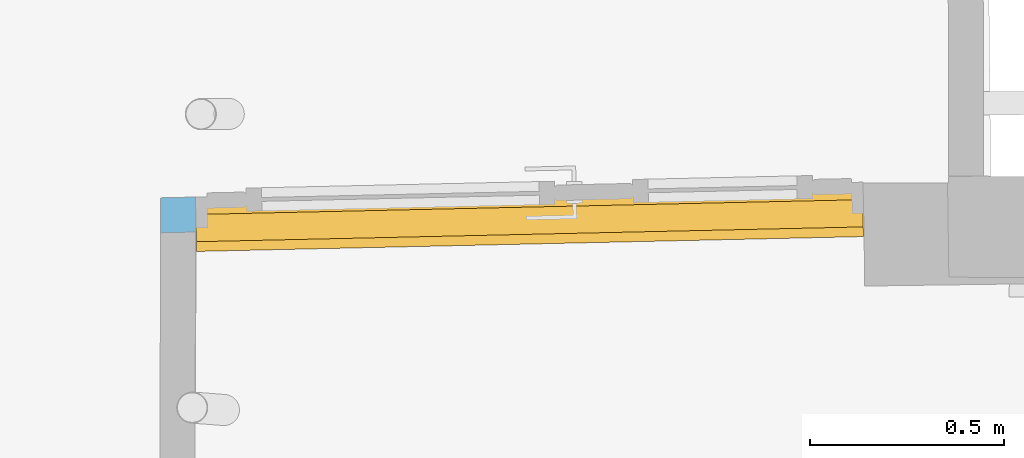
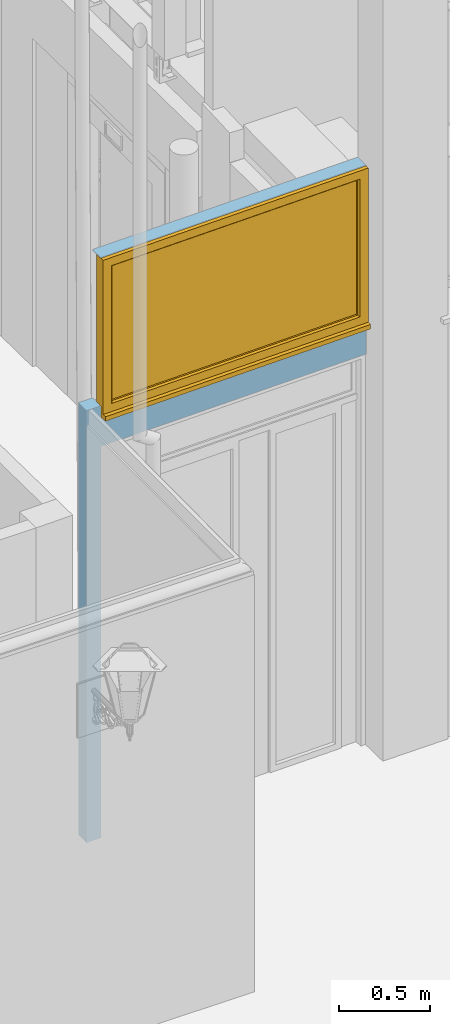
# One storey, part 93 of 133: 1 window, 2 openings, plus 1 element that does not belong to this part.
"""IFC2X3 building model written with IfcOpenShell, lengths in centimetres."""

from ifc_helpers import new_model, entity, si_unit, converted_unit, direction, frame, origin, origin_with_axes, place, context, subcontext, project, spatial, polyline, outline, extrude, clip, bounded_halfspace, faceted_brep, shape, material, material_list, layer, layer_set, layer_usage, type_object, element, fill, save


model = new_model("IFC2X3")

# Units and contexts
model_context = context("Model", 3, precision=0.0001, world=origin(), true_north=direction((0.225632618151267, 0.974212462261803, 0.0)))
body_context = subcontext(model_context, "Body", "Model", "MODEL_VIEW")
footprint_context = subcontext(model_context, "FootPrint", "Model", "MODEL_VIEW")
profile_context = subcontext(model_context, "Profile", "Model", "MODEL_VIEW")
ifc_project = project(units=[si_unit("LENGTHUNIT", "METRE", prefix="CENTI"), si_unit("AREAUNIT", "SQUARE_METRE", prefix="CENTI"), si_unit("VOLUMEUNIT", "CUBIC_METRE", prefix="CENTI"), converted_unit("PLANEANGLEUNIT", "DEGREE", entity("IfcRatioMeasure", 0.0174532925), si_unit("PLANEANGLEUNIT", "RADIAN"), dimensions=[0, 0, 0, 0, 0, 0, 0])], contexts=[model_context])

# Site, building, storey
site_placement = place(None, origin_with_axes())
site = spatial("IfcSite", under=ifc_project, at=site_placement, Name="Default Site", CompositionType="ELEMENT")
building_placement = place(site_placement, origin_with_axes())
building = spatial("IfcBuilding", under=site, at=building_placement, Name="Default Building", CompositionType="ELEMENT")
storey_placement = place(building_placement, frame((0.0, 0.0, -291.400371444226), z_axis=(0.0, 0.0, 1.0), x_axis=(1.0, 0.0, 0.0)))
storey = spatial("IfcBuildingStorey", under=building, at=storey_placement, Name="Rez-de-Jardin", CompositionType="ELEMENT", Elevation=-291.400371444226)

# Wall, openings, window
ifc_material_1 = material(Name="<aucun>")
ifc_layer = layer(ifc_material_1, 9.0)
ifc_layer_set = layer_set([ifc_layer], Name="default")
ifc_layer_usage = layer_usage(ifc_layer_set, "AXIS2", "POSITIVE", -4.5)
wall_type = type_object("IfcWallType", Name="default 90", PredefinedType="NOTDEFINED", material=ifc_layer_set)
wall_placement = place(storey_placement, frame((902.950751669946, -880.856620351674, -1.94511073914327e-11), z_axis=(0.0, 0.0, 1.0), x_axis=(0.999752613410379, 0.0222421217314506, 0.0)))
wall = element("IfcWallStandardCase", 1, at=wall_placement, inside=storey, type_object=wall_type, material=ifc_layer_usage, Name="Enveloppe 238929", context=body_context, shape_type="Clipping", body=[
    clip(extrude(outline(polyline([(-9.17824517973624, -4.49999999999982), (171.546982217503, -4.49999999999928), (171.546982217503, 4.50000000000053), (-8.95163897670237, 4.50000000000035), (-9.17824517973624, -4.49999999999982)])), frame((0.0, 0.0, 4.44089209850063e-14), z_axis=(0.0, 0.0, 1.0), x_axis=(1.0, 0.0, 0.0)), (0.0, 0.0, 1.0), 391.400371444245), bounded_halfspace(frame((-9.17824517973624, -4.49999999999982, 291.413221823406), z_axis=(0.0, 0.0, -1.0), x_axis=(1.0, 8.31973379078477e-15, 0.0)), True, frame((-9.17824517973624, -4.49999999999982, 291.413221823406), z_axis=(0.0, 0.0, 1.0), x_axis=(1.0, 0.0, 0.0)), polyline([(-1.77635683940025e-13, 0.0), (9.17824517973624, 3.5527136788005e-13), (9.17824517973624, 8.99999999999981), (0.226606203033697, 9.00000000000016), (-1.77635683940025e-13, 0.0)]))),
])
opening_1_placement = place(wall_placement, frame((-2.27373675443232e-13, 0.0, 287.00000000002), z_axis=(0.0, 0.0, 1.0), x_axis=(1.0, 1.18308141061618e-15, 0.0)))
cartesian_point_1 = entity("IfcCartesianPoint", [0.0, 0.0, 104.0])
cartesian_point_2 = entity("IfcCartesianPoint", [171.472326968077, 4.49999999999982])
opening_1 = element("IfcOpeningElement", 2, at=opening_1_placement, cuts=wall, Name="4294966518_11", ObjectType="Opening", shapes=[
    shape(body_context, "Body", "SweptSolid", [extrude(outline(polyline([(0.0, 104.0), (0.0, -2.99999999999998), (171.472326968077, -2.99999999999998), (171.472326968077, 104.0), (0.0, 104.0)])), frame((0.0, 14.5, 0.0), z_axis=(0.0, -1.0, 0.0), x_axis=(1.0, 0.0, 0.0)), (0.0, 0.0, 1.0), 29.0)]),
    shape(profile_context, "Profile", "GeometricCurveSet", [entity("IfcGeometricCurveSet", [entity("IfcPolyline", [cartesian_point_1, entity("IfcCartesianPoint", [0.0, 0.0, 0.0]), entity("IfcCartesianPoint", [171.472326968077, -1.77635683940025e-13, 0.0]), entity("IfcCartesianPoint", [171.472326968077, -1.77635683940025e-13, 104.0]), cartesian_point_1])])]),
    shape(footprint_context, "FootPrint", "GeometricCurveSet", [entity("IfcGeometricCurveSet", [entity("IfcPolyline", [cartesian_point_2, entity("IfcCartesianPoint", [0.0, 4.49999999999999]), entity("IfcCartesianPoint", [0.0, -4.49999999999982]), entity("IfcCartesianPoint", [171.472326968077, -4.49999999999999]), cartesian_point_2])])]),
])
opening_2_placement = place(wall_placement, frame((0.0, 0.0, -1.33226762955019e-13), z_axis=(0.0, 0.0, 1.0), x_axis=(1.0, 1.18308141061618e-15, 0.0)))
cartesian_point_3 = entity("IfcCartesianPoint", [0.0, 0.0, 263.999023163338])
cartesian_point_4 = entity("IfcCartesianPoint", [171.672254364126, 4.49999999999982])
element("IfcOpeningElement", 3, at=opening_2_placement, cuts=wall, Name="4294966385_11", ObjectType="Opening", shapes=[
    shape(body_context, "Body", "SweptSolid", [extrude(outline(polyline([(0.0, 263.999023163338), (0.0, 0.0), (171.672254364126, 0.0), (171.672254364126, 263.999023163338), (0.0, 263.999023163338)])), frame((0.0, 14.5, 0.0), z_axis=(0.0, -1.0, 0.0), x_axis=(1.0, 0.0, 0.0)), (0.0, 0.0, 1.0), 29.0)]),
    shape(profile_context, "Profile", "GeometricCurveSet", [entity("IfcGeometricCurveSet", [entity("IfcPolyline", [cartesian_point_3, entity("IfcCartesianPoint", [0.0, 0.0, 0.0]), entity("IfcCartesianPoint", [171.672254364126, 0.0, 0.0]), entity("IfcCartesianPoint", [171.672254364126, 0.0, 263.999023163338]), cartesian_point_3])])]),
    shape(footprint_context, "FootPrint", "GeometricCurveSet", [entity("IfcGeometricCurveSet", [entity("IfcPolyline", [cartesian_point_4, entity("IfcCartesianPoint", [0.0, 4.49999999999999]), entity("IfcCartesianPoint", [0.0, -4.49999999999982]), entity("IfcCartesianPoint", [171.672254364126, -4.49999999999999]), cartesian_point_4])])]),
])
ifc_material_2 = material(Name="Transparent")
ifc_material_3 = material(Name="Blanc trafic")
ifc_material_4 = material(Name="Béton (01)")
ifc_material_list = material_list([ifc_material_2, ifc_material_3, ifc_material_4])
window_style = type_object("IfcWindowStyle", Name="F[R] VV", ConstructionType="NOTDEFINED", OperationType="SINGLE_PANEL", ParameterTakesPrecedence=True, Sizeable=False, material=ifc_material_list)
window_placement = place(opening_1_placement, frame((0.0, 0.0, 5.6843418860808e-14), z_axis=(0.0, 0.0, 1.0), x_axis=(1.0, 0.0, 0.0)))
window = element("IfcWindow", 4, at=window_placement, inside=storey, type_object=window_style, material=ifc_material_list, Name="Fenêtre 531068", OverallHeight=104.0, OverallWidth=171.472326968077, context=body_context, shape_type="Brep", body=[
    faceted_brep([(171.472306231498, 4.50001388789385, 5.66246854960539e-08), (-3.44932772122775e-05, 4.49998823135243, 5.66246854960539e-08), (-3.63019749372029e-05, -4.4999646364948, 5.66246854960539e-08), (4.65005280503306e-05, -9.49998271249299, 5.66246854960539e-08), (171.472291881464, -9.49995493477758, 5.66246854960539e-08), (171.472302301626, -4.50003432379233, 5.66246854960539e-08), (171.472302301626, -4.50003432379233, -2.99999969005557), (171.472291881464, -9.49995493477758, -2.99999969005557), (4.65005280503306e-05, -9.49998271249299, -2.99999969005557), (-3.63019749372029e-05, -4.4999646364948, -2.99999969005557), (-3.44932772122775e-05, 4.49998823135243, -2.99999969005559), (171.472306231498, 4.50001388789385, -2.99999969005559), (171.472302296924, -9.49995493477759, 5.66246854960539e-08), (171.472302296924, -9.49995493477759, -2.99999969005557), (4.65005280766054e-05, -9.49995477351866, 5.66246854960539e-08), (4.65005280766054e-05, -9.49995477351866, -2.99999969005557), (171.472291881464, -9.49995493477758, -2.99999969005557), (4.65052302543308e-05, -4.49996463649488, 5.66246854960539e-08), (4.65052302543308e-05, -4.49996463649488, -2.99999969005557), (4.65005280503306e-05, -9.49998271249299, -2.99999969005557), (-3.62935110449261e-05, 4.49998823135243, 5.66246854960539e-08), (-3.62935110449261e-05, 4.49998823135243, -2.99999969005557), (171.472306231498, 4.49998807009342, 5.66246854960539e-08), (171.472306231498, 4.49998807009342, -2.99999969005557), (-3.44932772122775e-05, 4.49998823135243, -2.99999969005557), (171.472306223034, -4.50003432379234, 5.66246854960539e-08), (171.472306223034, -4.50003432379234, -2.99999969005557), (171.472306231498, 4.50001388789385, -2.99999969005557)], [[[0, 1, 2, 3, 4, 5]], [[6, 7, 8, 9, 10, 11]], [[5, 12, 13, 6]], [[4, 14, 15, 16]], [[3, 17, 18, 19]], [[2, 20, 21, 9]], [[1, 22, 23, 24]], [[0, 25, 26, 27]]]),
    faceted_brep([(165.972324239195, -7.0000000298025, 98.5000014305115), (164.972324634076, -6.00000042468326, 97.5000023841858), (164.972324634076, -6.00000042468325, 6.49999976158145), (165.972324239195, -7.00000002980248, 5.4999999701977), (164.97232519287, -5.99999986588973, 97.5000023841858), (164.97232519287, -0.999999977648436, 97.5000023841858), (164.97232519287, -0.999999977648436, 6.49999976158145), (164.97232519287, -5.99999986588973, 6.49999976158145), (165.972324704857, -4.65661464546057e-07, 98.5000014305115), (165.972324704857, -4.65661480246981e-07, 5.4999999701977), (164.97232519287, -0.999999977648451, 6.49999976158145), (165.972324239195, -1.77357308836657e-13, 98.5000014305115), (171.472324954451, -1.77338226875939e-13, 103.999996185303), (171.472324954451, -1.77338226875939e-13, -1.87350135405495e-14), (165.972324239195, -1.77357308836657e-13, 5.4999999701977), (171.472324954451, -7.0000000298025, 103.999996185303), (171.472324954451, -7.0000000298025, -1.87350135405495e-14), (165.972324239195, -7.0000000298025, 5.4999999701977), (164.97232519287, -6.00000005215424, 6.49999994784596), (6.50000177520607, -6.00000005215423, 6.49999994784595), (5.50000272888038, -7.00000002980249, 5.49999997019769), (6.50000177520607, -0.999999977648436, 6.49999976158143), (6.50000177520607, -5.99999986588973, 6.49999976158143), (165.972324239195, -9.31324351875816e-08, 5.49999987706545), (5.50000272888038, -9.31324470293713e-08, 5.49999987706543), (6.50000177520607, -0.999999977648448, 6.49999976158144), (2.01362464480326e-06, -1.77933141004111e-13, -1.87350135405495e-14), (5.50000272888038, -1.77914059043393e-13, 5.4999999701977), (2.01362464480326e-06, -7.0000000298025, -1.87350135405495e-14), (5.50000272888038, -7.0000000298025, 5.4999999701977), (6.50000233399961, -6.00000042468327, 6.49999976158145), (6.50000233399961, -6.00000042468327, 97.5000023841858), (5.50000272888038, -7.0000000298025, 98.5000014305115), (6.50000177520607, -5.99999986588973, 6.49999976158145), (6.50000177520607, -0.999999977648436, 6.49999976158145), (6.50000177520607, -0.999999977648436, 97.5000023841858), (6.50000177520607, -5.99999986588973, 97.5000023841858), (5.50000226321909, -4.65661465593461e-07, 5.4999999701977), (5.50000226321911, -4.65661454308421e-07, 98.5000014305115), (6.50000177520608, -0.999999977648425, 97.5000023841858), (2.01362464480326e-06, -1.77933141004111e-13, 103.999996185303), (5.50000272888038, -1.77914059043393e-13, 98.5000014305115), (2.01362464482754e-06, -7.0000000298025, -1.87350135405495e-14), (2.01362464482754e-06, -7.0000000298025, 103.999996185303), (2.01362464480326e-06, -7.0000000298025, 103.999996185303), (6.50000177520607, -6.00000042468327, 97.5000018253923), (164.97232519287, -6.00000042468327, 97.5000018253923), (5.50000272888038, -4.65661465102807e-07, 98.5000018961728), (165.972324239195, -4.65661464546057e-07, 98.5000018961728), (164.97232519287, -0.999999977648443, 97.5000023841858)], [[[0, 1, 2, 3]], [[4, 5, 6, 7]], [[5, 8, 9, 10]], [[11, 12, 13, 14]], [[12, 15, 16, 13]], [[15, 0, 17, 16]], [[17, 18, 19, 20]], [[7, 6, 21, 22]], [[6, 23, 24, 25]], [[14, 13, 26, 27]], [[13, 16, 28, 26]], [[16, 17, 29, 28]], [[29, 30, 31, 32]], [[33, 34, 35, 36]], [[34, 37, 38, 39]], [[27, 26, 40, 41]], [[26, 42, 43, 40]], [[28, 29, 32, 44]], [[32, 45, 46, 0]], [[36, 35, 5, 4]], [[35, 47, 48, 49]], [[41, 40, 12, 11]], [[40, 44, 15, 12]], [[44, 32, 0, 15]]]),
    faceted_brep([(6.50000177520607, -4.89999987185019, 97.5000023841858), (6.50000177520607, -4.89999987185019, 6.49999976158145), (164.97232519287, -4.89999987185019, 6.49999976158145), (164.97232519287, -4.89999987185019, 97.5000023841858), (164.97232519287, -2.09999997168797, 97.5000023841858), (164.97232519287, -2.09999997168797, 6.49999976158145), (6.50000177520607, -2.09999997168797, 6.49999976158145), (6.50000177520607, -2.09999997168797, 97.5000023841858)], [[[0, 1, 2, 3]], [[4, 5, 6, 7]], [[3, 2, 5, 4]], [[2, 1, 6, 5]], [[1, 0, 7, 6]], [[0, 3, 4, 7]]]),
])
fill(opening_1, window)

save(model, "model.ifc")
